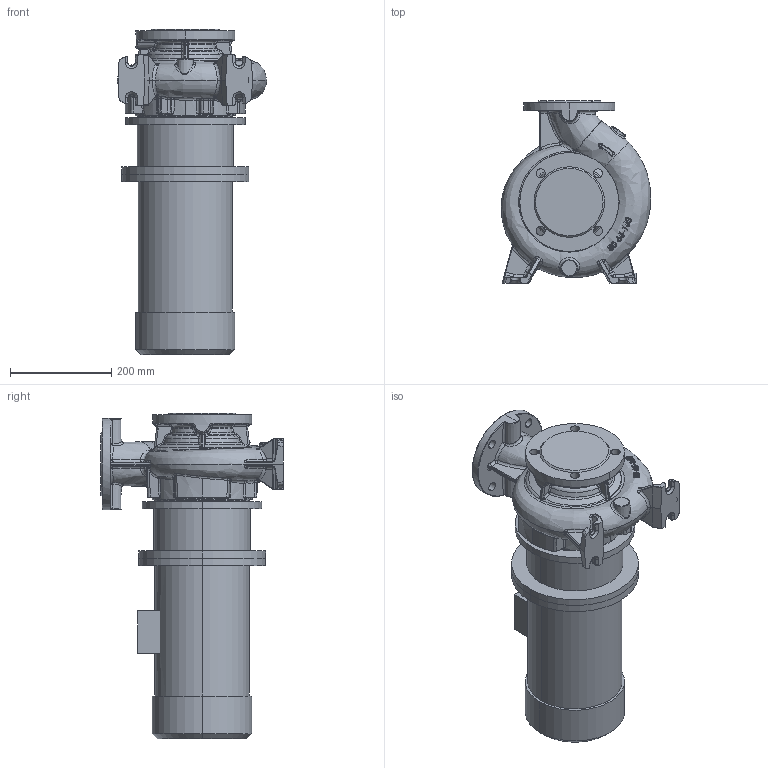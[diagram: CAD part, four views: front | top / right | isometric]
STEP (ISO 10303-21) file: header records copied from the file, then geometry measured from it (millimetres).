
FILE_DESCRIPTION (( 'STEP AP203' ), '1' );
FILE_NAME ('KRM 80-65-160-4-2,2.STEP', '2026-05-07T12:01:00', ( '' ), ( '' ), 'SwSTEP 2.0', 'SolidWorks 2016', '' );
FILE_SCHEMA (( 'CONFIG_CONTROL_DESIGN' ));
Length unit declared in the file: millimetre
Products named in the file (1): KRM 80-65-160-4-2,2
Bounding box: 295.21 x 360 x 641.3 mm (x, y, z)
Volume: 22665040.5 mm3; surface area: 1008863.3 mm2
Topology: 14 solids, 14 shells, 1113 faces, 2656 edges, 1559 vertices
Faces by surface type: bspline 533, cylinder 208, plane 191, torus 104, cone 58, sphere 19
Entity records: 61492 total; most frequent: CARTESIAN_POINT 39770, ORIENTED_EDGE 5254, DIRECTION 3533, EDGE_CURVE 2627, VERTEX_POINT 1559, AXIS2_PLACEMENT_3D 1480, EDGE_LOOP 1158, FACE_OUTER_BOUND 1113
